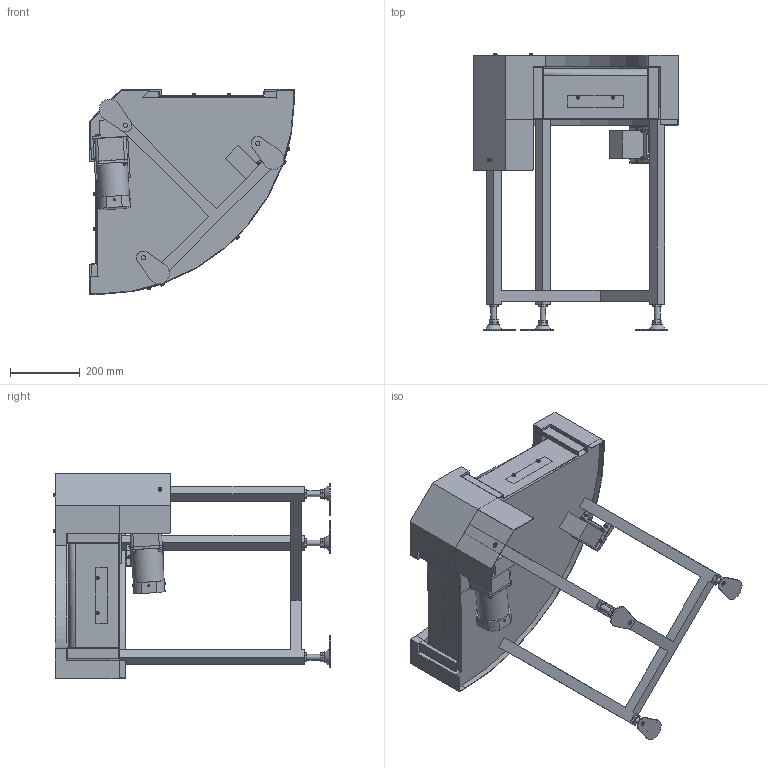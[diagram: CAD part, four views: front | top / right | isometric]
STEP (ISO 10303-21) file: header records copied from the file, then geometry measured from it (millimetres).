
FILE_DESCRIPTION( (''), '2;1');
FILE_NAME ('WEB-MBC2H-UD-309-300-90°-L-K-60-O.stp','2026-06-19T10:39:45',(''),(''),'spGate 21.9.5 (****-****-****-****)','','');
FILE_SCHEMA (('AUTOMOTIVE_DESIGN'));
Length unit declared in the file: millimetre
Products named in the file (47): WEB-MBC2H-UD-309-300-90_-L-K-60-O; TEMP_X_T-prt0; TEMP_X_T-prt1; TEMP_X_T-prt2; TEMP_X_T-prt3; TEMP_X_T-prt4; TEMP_X_T-prt5; TEMP_X_T-prt6; TEMP_X_T-prt7; TEMP_X_T-prt8; TEMP_X_T-prt9; TEMP_X_T-prt10; TEMP_X_T-prt11; TEMP_X_T-prt12; TEMP_X_T-prt13; TEMP_X_T-prt14; TEMP_X_T-prt15; TEMP_X_T-prt16; TEMP_X_T-prt17; TEMP_X_T-prt18; TEMP_X_T-prt19; TEMP_X_T-prt20; TEMP_X_T-prt21; TEMP_X_T-prt22; TEMP_X_T-prt23; TEMP_X_T-prt24; TEMP_X_T-prt25; TEMP_X_T-prt26; TEMP_X_T-prt27; TEMP_X_T-prt28; TEMP_X_T-prt29; TEMP_X_T-prt30; TEMP_X_T-prt31; TEMP_X_T-prt32; TEMP_X_T-prt33; TEMP_X_T-prt34; TEMP_X_T-prt35; TEMP_X_T-prt36; TEMP_X_T-prt37; TEMP_X_T-prt38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
Assembly tree (46 placements, depth 2):
  WEB-MBC2H-UD-309-300-90_-L-K-60-O
    TEMP_X_T-prt0
    TEMP_X_T-prt1
    TEMP_X_T-prt2
    TEMP_X_T-prt3
    TEMP_X_T-prt4
    TEMP_X_T-prt5
    TEMP_X_T-prt6
    TEMP_X_T-prt7
    TEMP_X_T-prt8
    TEMP_X_T-prt9
    TEMP_X_T-prt10
    TEMP_X_T-prt11
    TEMP_X_T-prt12
    TEMP_X_T-prt13
    TEMP_X_T-prt14
    TEMP_X_T-prt15
    TEMP_X_T-prt16
    TEMP_X_T-prt17
    TEMP_X_T-prt18
    TEMP_X_T-prt19
    TEMP_X_T-prt20
    TEMP_X_T-prt21
    TEMP_X_T-prt22
    TEMP_X_T-prt23
    TEMP_X_T-prt24
    TEMP_X_T-prt25
    TEMP_X_T-prt26
    TEMP_X_T-prt27
    TEMP_X_T-prt28
    TEMP_X_T-prt29
    TEMP_X_T-prt30
    TEMP_X_T-prt31
    TEMP_X_T-prt32
    TEMP_X_T-prt33
    TEMP_X_T-prt34
    TEMP_X_T-prt35
    TEMP_X_T-prt36
    TEMP_X_T-prt37
    TEMP_X_T-prt38
    TEMP_X_T-prt39
    TEMP_X_T-prt40
    TEMP_X_T-prt41
    TEMP_X_T-prt42
    TEMP_X_T-prt43
    TEMP_X_T-prt44
    TEMP_X_T-prt45
Bounding box: 588.1 x 794.6 x 588.1 mm (x, y, z)
Volume: 31203374.4 mm3; surface area: 2403522.3 mm2
Topology: 44 solids, 44 shells, 993 faces, 2407 edges, 1594 vertices
Faces by surface type: plane 609, bspline 203, cylinder 181
Full cylindrical faces by diameter (mm): 3.3 x2, 3.8 x4, 4 x4, 4.2 x2, 4.3 x4, 4.5 x2, 5 x8, 5.3 x2, 5.6 x4, 6 x8, 6.4 x2, 6.5 x8, 7 x6, 8 x4, 9 x16, 9.2 x12, 10 x20, 11.32 x1, 12.5 x2, 13 x3, 15 x1, 16 x9, 34 x1, 83 x2, 84 x1, 89 x1
Entity records: 54780 total; most frequent: CARTESIAN_POINT 11371, ORIENTED_EDGE 4814, DIRECTION 4526, COLOUR_RGB 3446, PRESENTATION_STYLE_ASSIGNMENT 3446, STYLED_ITEM 3446, EDGE_CURVE 2407, DRAUGHTING_PRE_DEFINED_CURVE_FONT 2407
